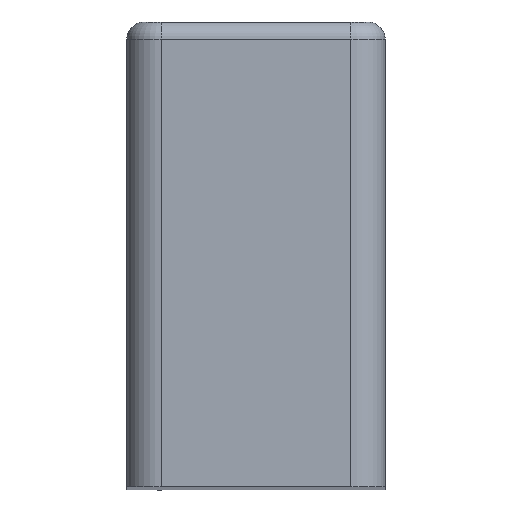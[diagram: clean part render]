
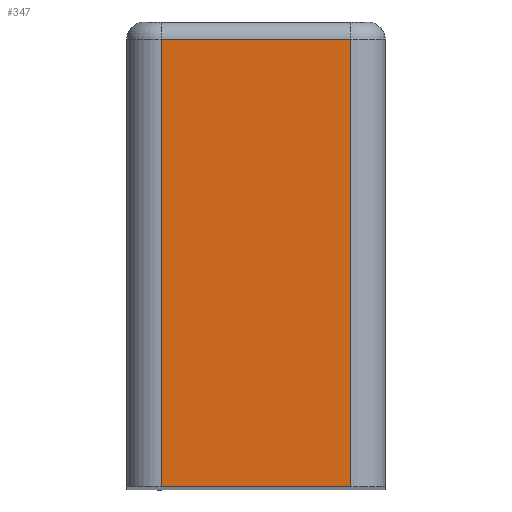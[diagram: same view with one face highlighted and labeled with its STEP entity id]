
A CAD part, top view. The second image highlights one B-rep face of the part: STEP entity #347.
In plain terms, the highlighted planar face has unit normal (0, 0, 1).
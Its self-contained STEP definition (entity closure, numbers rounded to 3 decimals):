
#20 = FACE_OUTER_BOUND ( 'NONE', #167, .T. ) ;
#45 = VECTOR ( 'NONE', #492, 1000. ) ;
#46 = LINE ( 'NONE', #495, #45 ) ;
#58 = VECTOR ( 'NONE', #513, 1000. ) ;
#59 = LINE ( 'NONE', #514, #58 ) ;
#83 = VECTOR ( 'NONE', #525, 1000. ) ;
#91 = LINE ( 'NONE', #537, #102 ) ;
#102 = VECTOR ( 'NONE', #536, 1000. ) ;
#107 = LINE ( 'NONE', #526, #83 ) ;
#167 = EDGE_LOOP ( 'NONE', ( #203, #204, #205, #206 ) ) ;
#203 = ORIENTED_EDGE ( 'NONE', *, *, #299, .F. ) ;
#204 = ORIENTED_EDGE ( 'NONE', *, *, #328, .T. ) ;
#205 = ORIENTED_EDGE ( 'NONE', *, *, #316, .T. ) ;
#206 = ORIENTED_EDGE ( 'NONE', *, *, #305, .T. ) ;
#261 = AXIS2_PLACEMENT_3D ( 'NONE', #415, #412, #411 ) ;
#299 = EDGE_CURVE ( 'NONE', #502, #575, #91, .T. ) ;
#305 = EDGE_CURVE ( 'NONE', #515, #575, #107, .T. ) ;
#316 = EDGE_CURVE ( 'NONE', #522, #515, #59, .T. ) ;
#328 = EDGE_CURVE ( 'NONE', #502, #522, #46, .T. ) ;
#347 = ADVANCED_FACE ( 'NONE', ( #20 ), #414, .F. ) ;
#378 = CARTESIAN_POINT ( 'NONE',  ( 5.5, 0., 101.56 ) ) ;
#390 = CARTESIAN_POINT ( 'NONE',  ( -5.5, 0., 101.56 ) ) ;
#396 = CARTESIAN_POINT ( 'NONE',  ( -5.5, 26., 101.56 ) ) ;
#409 = CARTESIAN_POINT ( 'NONE',  ( 5.5, 26., 101.56 ) ) ;
#411 = DIRECTION ( 'NONE',  ( 0., -1., 0. ) ) ;
#412 = DIRECTION ( 'NONE',  ( 0., 0., -1. ) ) ;
#414 = PLANE ( 'NONE',  #261 ) ;
#415 = CARTESIAN_POINT ( 'NONE',  ( -5.5, 27., 101.56 ) ) ;
#492 = DIRECTION ( 'NONE',  ( -1., 0., 0. ) ) ;
#495 = CARTESIAN_POINT ( 'NONE',  ( -5.5, 26., 101.56 ) ) ;
#502 = VERTEX_POINT ( 'NONE', #409 ) ;
#513 = DIRECTION ( 'NONE',  ( 0., -1., 0. ) ) ;
#514 = CARTESIAN_POINT ( 'NONE',  ( -5.5, 27., 101.56 ) ) ;
#515 = VERTEX_POINT ( 'NONE', #390 ) ;
#522 = VERTEX_POINT ( 'NONE', #396 ) ;
#525 = DIRECTION ( 'NONE',  ( 1., 0., 0. ) ) ;
#526 = CARTESIAN_POINT ( 'NONE',  ( -5.5, 0., 101.56 ) ) ;
#536 = DIRECTION ( 'NONE',  ( 0., -1., 0. ) ) ;
#537 = CARTESIAN_POINT ( 'NONE',  ( 5.5, 27., 101.56 ) ) ;
#575 = VERTEX_POINT ( 'NONE', #378 ) ;
